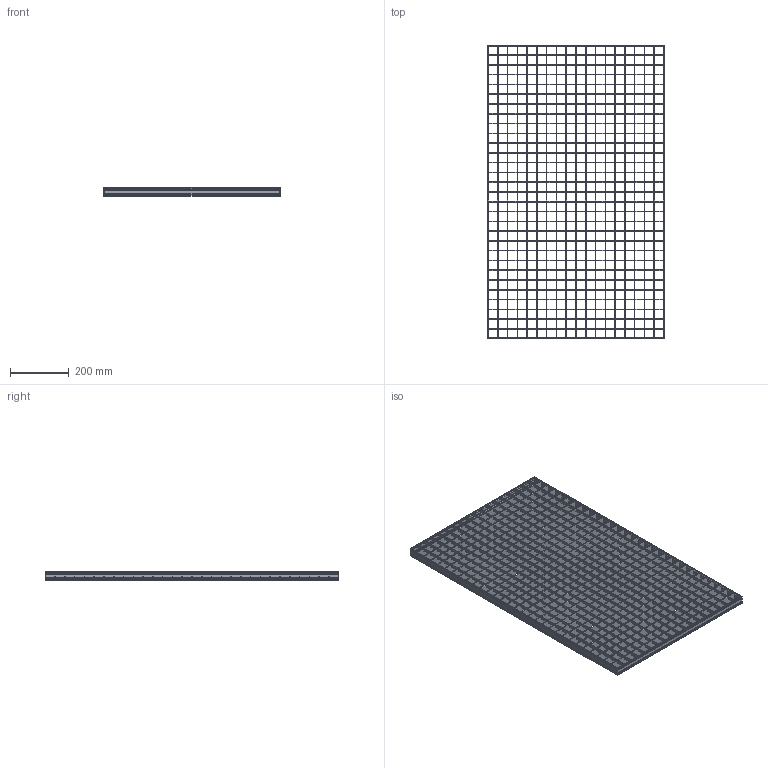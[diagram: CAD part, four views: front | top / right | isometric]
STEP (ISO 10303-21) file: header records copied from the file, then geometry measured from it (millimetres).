
FILE_DESCRIPTION(/* description */ ('STEP AP242','CAx-IF Rec.Pracs.---Representation and Presentation of Product Manufacturing Information (PMI)---4.0---2014-10-13','CAx-IF Rec.Pracs.---3D Tessellated Geometry---0.4---2014-09-14','2;1'),/* implementation_level */ '2;1');
FILE_NAME(/* name */ 'Lichtgitter_Pressure_locked_gratings PX3 230-33-2-1-1-600-1000_(350_0)',/* time_stamp */ '2026-04-23T08:24:48+02:00',/* author */ ('License CC BY-ND 4.0'),/* organization */ ('CADENAS'),/* preprocessor_version */ 'ST-DEVELOPER v20',/* originating_system */ 'PARTsolutions',/* authorisation */ ' ');
FILE_SCHEMA (('AP242_MANAGED_MODEL_BASED_3D_ENGINEERING_MIM_LF { 1 0 10303 442 1 1 4 }'));
Length unit declared in the file: millimetre
Products named in the file (5): Lichtgitter_Pressure_locked_gratings PX3 230-33-2-1-1-600-1000_(350_0
); Lichtgitter PX3 230-33-2_(Pressroste_350_1_1000_600)_VERTICAL; Lichtgitter PX3 230-33-2_(Pressroste_350_1_1000_600)_HORIZONTAL_C; Lichtgitter PX3 230-33-2_(Pressroste_350_1_1000_600)_HORIZONTAL; Lichtgitter PX3 230-33-2_(Pressroste_350_1_1000_600)_VERTICAL_C
Assembly tree (50 placements, depth 2):
  Lichtgitter_Pressure_locked_gratings PX3 230-33-2-1-1-600-1000_(350_0
)
    Lichtgitter PX3 230-33-2_(Pressroste_350_1_1000_600)_VERTICAL  x2
    Lichtgitter PX3 230-33-2_(Pressroste_350_1_1000_600)_HORIZONTAL_C  x29
    Lichtgitter PX3 230-33-2_(Pressroste_350_1_1000_600)_HORIZONTAL  x2
    Lichtgitter PX3 230-33-2_(Pressroste_350_1_1000_600)_VERTICAL_C  x17
Bounding box: 600 x 1000 x 30 mm (x, y, z)
Volume: 1574421.8 mm3; surface area: 1736923.6 mm2
Topology: 50 solids, 50 shells, 2320 faces, 6660 edges, 4440 vertices
Faces by surface type: plane 2288, cylinder 32
Entity records: 4167 total; most frequent: CARTESIAN_POINT 707, DIRECTION 690, ORIENTED_EDGE 648, EDGE_CURVE 324, LINE 292, VECTOR 292, VERTEX_POINT 216, AXIS2_PLACEMENT_3D 199
